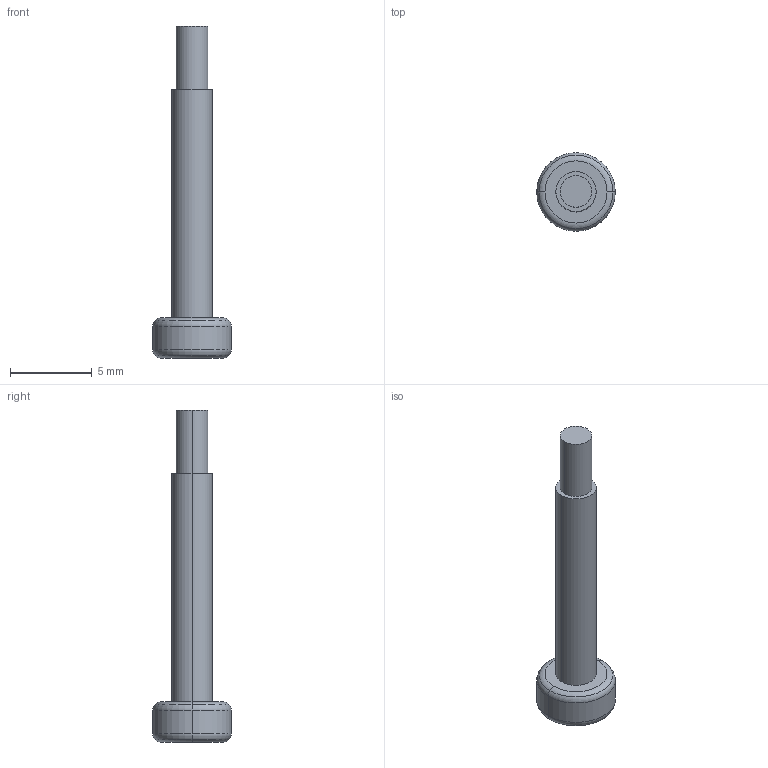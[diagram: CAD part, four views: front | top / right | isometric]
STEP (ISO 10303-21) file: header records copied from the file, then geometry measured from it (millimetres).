
FILE_DESCRIPTION((''),'2;1');
FILE_NAME('M2X2_5X20_SHSS_MACHINE_SCREW_-_','2024-05-15T17:24:53',('qinghui.yi'),(''),'CREO PARAMETRIC BY PTC INC, 2019164','CREO PARAMETRIC BY PTC INC, 2019164','');
FILE_SCHEMA(('CONFIG_CONTROL_DESIGN','SHAPE_APPEARANCE_LAYERS_GROUPS'));
Length unit declared in the file: millimetre
Products named in the file (1): M2X2_5X20_SHSS_MACHINE_SCREW_-_
Bounding box: 4.8 x 4.8 x 20.3 mm (x, y, z)
Volume: 116.6 mm3; surface area: 205.6 mm2
Topology: 1 solids, 1 shells, 25 faces, 55 edges, 38 vertices
Faces by surface type: plane 11, torus 8, cylinder 6
Entity records: 1234 total; most frequent: COLOUR_RGB 313, DIRECTION 135, CARTESIAN_POINT 113, ORIENTED_EDGE 104, PRESENTATION_STYLE_ASSIGNMENT 57, STYLED_ITEM 57, CURVE_STYLE 56, AXIS2_PLACEMENT_3D 54
